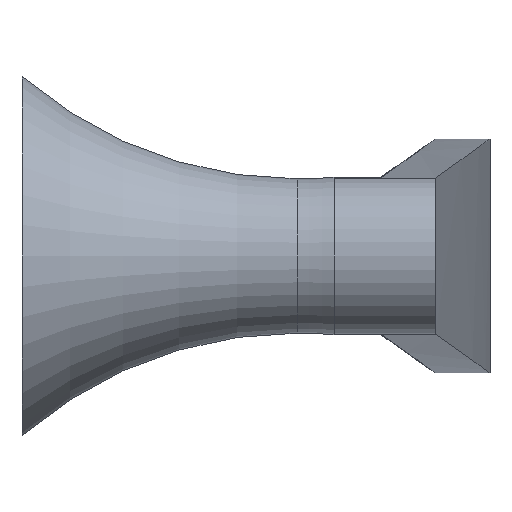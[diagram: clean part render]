
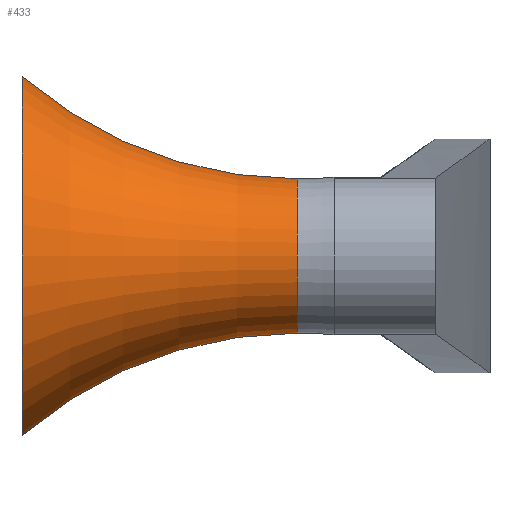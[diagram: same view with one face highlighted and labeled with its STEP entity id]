
A CAD part, left-side view. The second image highlights one B-rep face of the part: STEP entity #433.
In plain terms, the highlighted toroidal (fillet/blend) face has major radius 31.946 mm and minor radius 27 mm.
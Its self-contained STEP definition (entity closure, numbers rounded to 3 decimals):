
#223 = VERTEX_POINT( '', #546 );
#271 = VERTEX_POINT( '', #598 );
#299 = EDGE_CURVE( '', #271, #223, #629, .T. );
#309 = VERTEX_POINT( '', #643 );
#353 = EDGE_CURVE( '', #271, #309, #690, .T. );
#409 = EDGE_CURVE( '', #415, #309, #755, .T. );
#415 = VERTEX_POINT( '', #763 );
#433 = ADVANCED_FACE( '', ( #784 ), #785, .F. );
#467 = EDGE_CURVE( '', #415, #223, #820, .T. );
#546 = CARTESIAN_POINT( '', ( 0., 0., -11.5 ) );
#598 = CARTESIAN_POINT( '', ( 0., 0., 11.5 ) );
#629 = CIRCLE( '', #1076, 11.5 );
#643 = CARTESIAN_POINT( '', ( 0., -17.634, 4.946 ) );
#690 = CIRCLE( '', #1156, 27. );
#755 = CIRCLE( '', #1236, 4.946 );
#763 = CARTESIAN_POINT( '', ( 0., -17.634, -4.946 ) );
#784 = FACE_OUTER_BOUND( '', #1268, .T. );
#785 = TOROIDAL_SURFACE( '', #1269, 31.946, 27. );
#820 = CIRCLE( '', #1361, 27. );
#1076 = AXIS2_PLACEMENT_3D( '', #1549, #1550, #1551 );
#1156 = AXIS2_PLACEMENT_3D( '', #1636, #1637, #1638 );
#1236 = AXIS2_PLACEMENT_3D( '', #1743, #1744, #1745 );
#1268 = EDGE_LOOP( '', ( #1783, #1784, #1785, #1786 ) );
#1269 = AXIS2_PLACEMENT_3D( '', #1787, #1788, #1789 );
#1361 = AXIS2_PLACEMENT_3D( '', #1819, #1820, #1821 );
#1549 = CARTESIAN_POINT( '', ( 0., 0., 0. ) );
#1550 = DIRECTION( '', ( 0., -1., 0. ) );
#1551 = DIRECTION( '', ( 0., 0., 1. ) );
#1636 = CARTESIAN_POINT( '', ( 0., -17.634, 31.946 ) );
#1637 = DIRECTION( '', ( -1., 0., 0. ) );
#1638 = DIRECTION( '', ( 0., 0., 1. ) );
#1743 = CARTESIAN_POINT( '', ( 0., -17.634, 0. ) );
#1744 = DIRECTION( '', ( 0., 1., 0. ) );
#1745 = DIRECTION( '', ( 0., 0., -1. ) );
#1783 = ORIENTED_EDGE( '', *, *, #409, .T. );
#1784 = ORIENTED_EDGE( '', *, *, #353, .F. );
#1785 = ORIENTED_EDGE( '', *, *, #299, .T. );
#1786 = ORIENTED_EDGE( '', *, *, #467, .F. );
#1787 = CARTESIAN_POINT( '', ( 0., -17.634, 0. ) );
#1788 = DIRECTION( '', ( 0., -1., 0. ) );
#1789 = DIRECTION( '', ( 0., 0., -1. ) );
#1819 = CARTESIAN_POINT( '', ( 0., -17.634, -31.946 ) );
#1820 = DIRECTION( '', ( -1., 0., 0. ) );
#1821 = DIRECTION( '', ( 0., 0., -1. ) );
